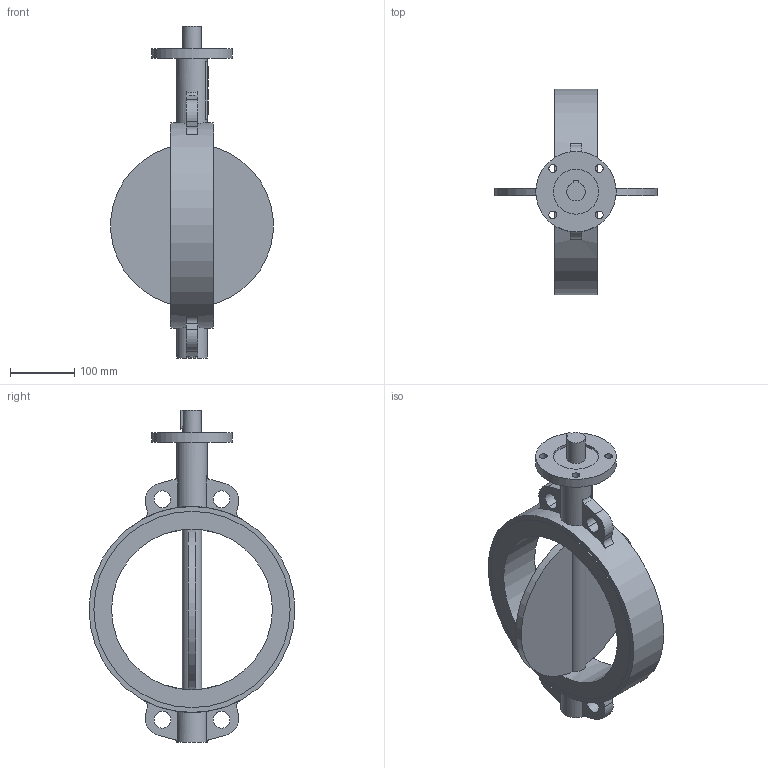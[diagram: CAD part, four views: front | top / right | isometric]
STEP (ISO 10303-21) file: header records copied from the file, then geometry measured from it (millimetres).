
FILE_DESCRIPTION(('STEP AP203'), '1');
FILE_NAME('青蜮铕 015WDN250 疱潴牝铕', '', ('UNSPECIFIED'), ('UNSPECIFIED'), 'ASCON STEP Converter 1.6', 'ASCON Math Kernel', '');
FILE_SCHEMA(('CONFIG_CONTROL_DESIGN'));
Length unit declared in the file: millimetre
Bounding box: 252.13 x 320 x 516 mm (x, y, z)
Surface area: 369706.4 mm2 (no closed solid volume)
Topology: 0 solids, 1 shells, 670 faces, 1985 edges, 1278 vertices
Faces by surface type: cylinder 488, plane 176, bspline 6
Full cylindrical faces by diameter (mm): 12 x4, 28.6 x1, 48 x2, 70 x1, 125 x1, 250 x1, 305 x2, 320 x1
Entity records: 32171 total; most frequent: CARTESIAN_POINT 6821, DIRECTION 4463, ORIENTED_EDGE 4035, EDGE_CURVE 2049, AXIS2_PLACEMENT_3D 1753, VERTEX_POINT 1335, CIRCLE 1048, LINE 957
